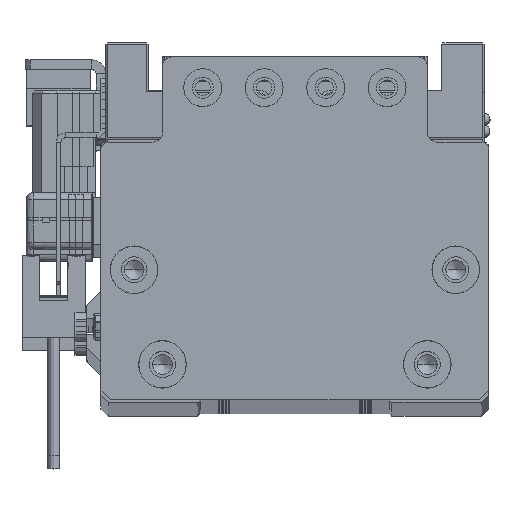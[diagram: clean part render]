
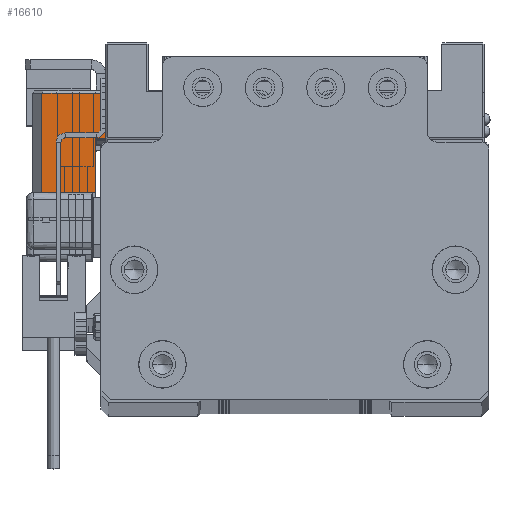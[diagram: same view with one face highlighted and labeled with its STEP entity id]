
A CAD part, top view. The second image highlights one B-rep face of the part: STEP entity #16610.
In plain terms, the highlighted planar face has unit normal (0, 0, 1) as drawn and (1, 0, 0) by its records, which use the part's own axes.
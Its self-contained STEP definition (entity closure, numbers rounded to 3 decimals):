
#366 = LINE ( 'NONE', #15676, #34636 ) ;
#4190 = ORIENTED_EDGE ( 'NONE', *, *, #8811, .T. ) ;
#4823 = LINE ( 'NONE', #71069, #22238 ) ;
#5361 = LINE ( 'NONE', #27560, #35219 ) ;
#5958 = VECTOR ( 'NONE', #32429, 1000. ) ;
#6494 = VERTEX_POINT ( 'NONE', #25742 ) ;
#8786 = LINE ( 'NONE', #20054, #5958 ) ;
#8811 = EDGE_CURVE ( 'NONE', #32497, #31398, #26119, .T. ) ;
#9362 = DIRECTION ( 'NONE',  ( 0., 0., -1. ) ) ;
#10507 = CARTESIAN_POINT ( 'NONE',  ( 17., 0.75, -13.3 ) ) ;
#11988 = EDGE_CURVE ( 'NONE', #69051, #6494, #5361, .T. ) ;
#15676 = CARTESIAN_POINT ( 'NONE',  ( 17., -10.75, -13.3 ) ) ;
#16610 = ADVANCED_FACE ( 'NONE', ( #52338 ), #46880, .T. ) ;
#18977 = EDGE_CURVE ( 'NONE', #35839, #6494, #4823, .T. ) ;
#19427 = CARTESIAN_POINT ( 'NONE',  ( 17., 10.25, -2. ) ) ;
#20054 = CARTESIAN_POINT ( 'NONE',  ( 17., 0.75, -15.5 ) ) ;
#20444 = AXIS2_PLACEMENT_3D ( 'NONE', #63604, #20646, #9362 ) ;
#20576 = CARTESIAN_POINT ( 'NONE',  ( 17., -10.75, -13.3 ) ) ;
#20646 = DIRECTION ( 'NONE',  ( 1., 0., 0. ) ) ;
#22238 = VECTOR ( 'NONE', #54345, 1000. ) ;
#24251 = VERTEX_POINT ( 'NONE', #10507 ) ;
#24520 = VECTOR ( 'NONE', #53433, 1000. ) ;
#25742 = CARTESIAN_POINT ( 'NONE',  ( 17., -10.75, -2. ) ) ;
#26119 = LINE ( 'NONE', #48701, #24520 ) ;
#26884 = LINE ( 'NONE', #54203, #58970 ) ;
#27560 = CARTESIAN_POINT ( 'NONE',  ( 17., -10.75, -15.5 ) ) ;
#31398 = VERTEX_POINT ( 'NONE', #58100 ) ;
#32073 = DIRECTION ( 'NONE',  ( 0., -1., 0. ) ) ;
#32429 = DIRECTION ( 'NONE',  ( 0., 0., 1. ) ) ;
#32497 = VERTEX_POINT ( 'NONE', #61835 ) ;
#34636 = VECTOR ( 'NONE', #32073, 1000. ) ;
#35219 = VECTOR ( 'NONE', #71981, 1000. ) ;
#35839 = VERTEX_POINT ( 'NONE', #19427 ) ;
#38733 = EDGE_CURVE ( 'NONE', #24251, #69051, #366, .T. ) ;
#46880 = PLANE ( 'NONE',  #20444 ) ;
#48701 = CARTESIAN_POINT ( 'NONE',  ( 17., -10.75, -15.5 ) ) ;
#48825 = ORIENTED_EDGE ( 'NONE', *, *, #18977, .T. ) ;
#51122 = EDGE_CURVE ( 'NONE', #31398, #35839, #26884, .T. ) ;
#52338 = FACE_OUTER_BOUND ( 'NONE', #61202, .T. ) ;
#52633 = ORIENTED_EDGE ( 'NONE', *, *, #71039, .F. ) ;
#53433 = DIRECTION ( 'NONE',  ( 0., 1., 0. ) ) ;
#54203 = CARTESIAN_POINT ( 'NONE',  ( 17., 10.25, -15.5 ) ) ;
#54345 = DIRECTION ( 'NONE',  ( 0., -1., 0. ) ) ;
#58100 = CARTESIAN_POINT ( 'NONE',  ( 17., 10.25, -15.5 ) ) ;
#58970 = VECTOR ( 'NONE', #65441, 1000. ) ;
#61202 = EDGE_LOOP ( 'NONE', ( #4190, #64221, #48825, #61431, #65744, #52633 ) ) ;
#61431 = ORIENTED_EDGE ( 'NONE', *, *, #11988, .F. ) ;
#61835 = CARTESIAN_POINT ( 'NONE',  ( 17., 0.75, -15.5 ) ) ;
#63604 = CARTESIAN_POINT ( 'NONE',  ( 17., -10.75, -15.5 ) ) ;
#64221 = ORIENTED_EDGE ( 'NONE', *, *, #51122, .T. ) ;
#65441 = DIRECTION ( 'NONE',  ( 0., 0., 1. ) ) ;
#65744 = ORIENTED_EDGE ( 'NONE', *, *, #38733, .F. ) ;
#69051 = VERTEX_POINT ( 'NONE', #20576 ) ;
#71039 = EDGE_CURVE ( 'NONE', #32497, #24251, #8786, .T. ) ;
#71069 = CARTESIAN_POINT ( 'NONE',  ( 17., -10.75, -2. ) ) ;
#71981 = DIRECTION ( 'NONE',  ( 0., 0., 1. ) ) ;
